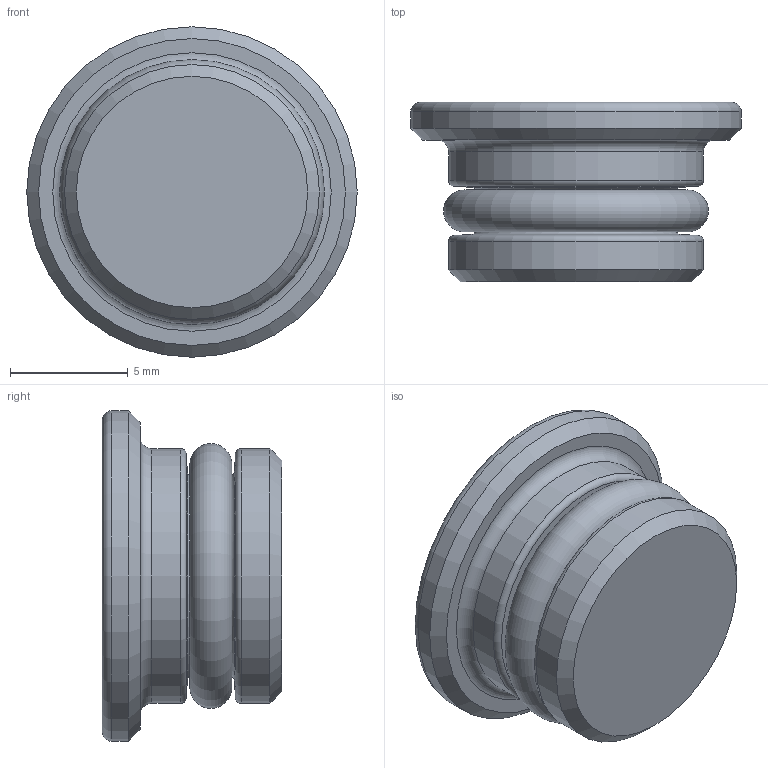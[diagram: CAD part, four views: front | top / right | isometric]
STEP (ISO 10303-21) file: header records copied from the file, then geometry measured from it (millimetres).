
FILE_DESCRIPTION (( 'STEP AP214' ), '1' );
FILE_NAME ('282474.STEP', '2013-10-08T06:15:26', ( 'ST01' ), ( '' ), 'SwSTEP 2.0', 'SolidWorks 2012', '' );
FILE_SCHEMA (( 'AUTOMOTIVE_DESIGN' ));
Length unit declared in the file: millimetre
Products named in the file (3): 0001G0021T500; 01V2100010300; 282474
Assembly tree (2 placements, depth 2):
  282474
    01V2100010300
    0001G0021T500
Bounding box: 14 x 7.6 x 14 mm (x, y, z)
Volume: 786.6 mm3; surface area: 751.3 mm2
Topology: 2 solids, 2 shells, 18 faces, 38 edges, 23 vertices
Faces by surface type: torus 7, cylinder 4, cone 4, plane 3
Full cylindrical faces by diameter (mm): 8.4 x1, 10.8 x2, 14 x1
Entity records: 454 total; most frequent: DIRECTION 78, CARTESIAN_POINT 55, AXIS2_PLACEMENT_3D 39, ORIENTED_EDGE 32, EDGE_LOOP 32, FACE_OUTER_BOUND 27, ADVANCED_FACE 18, VERTEX_POINT 16
